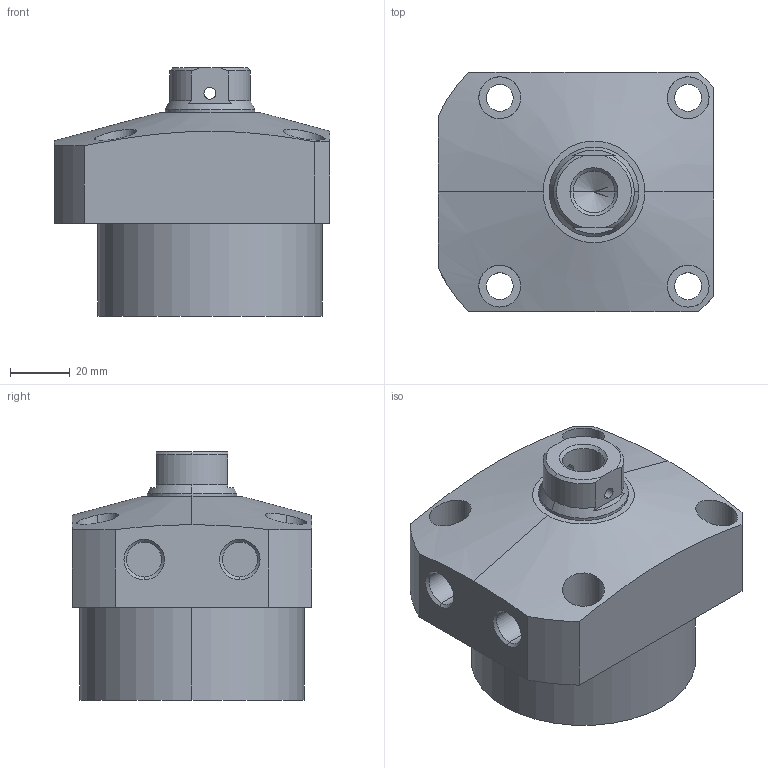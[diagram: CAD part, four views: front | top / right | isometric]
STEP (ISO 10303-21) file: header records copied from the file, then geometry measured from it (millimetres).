
FILE_DESCRIPTION (( 'STEP AP203' ), '1' );
FILE_NAME ('CLL-075CB-015.STEP', '2019-12-20T06:01:17', ( '' ), ( '' ), 'SwSTEP 2.0', 'SolidWorks 2015', '' );
FILE_SCHEMA (( 'CONFIG_CONTROL_DESIGN' ));
Length unit declared in the file: millimetre
Products named in the file (1): CLL-075CB-015
Bounding box: 92 x 80 x 83 mm (x, y, z)
Volume: 359524.5 mm3; surface area: 38658.8 mm2
Topology: 1 solids, 1 shells, 76 faces, 181 edges, 116 vertices
Faces by surface type: cylinder 39, plane 22, cone 15
Entity records: 2809 total; most frequent: CARTESIAN_POINT 932, DIRECTION 386, ORIENTED_EDGE 358, EDGE_CURVE 179, AXIS2_PLACEMENT_3D 158, VERTEX_POINT 116, EDGE_LOOP 99, CIRCLE 81
